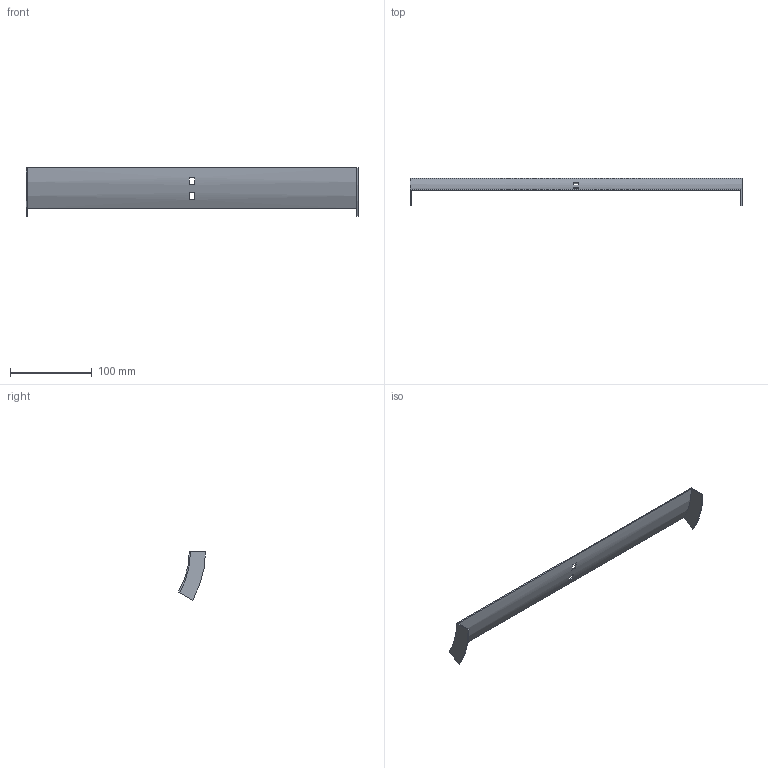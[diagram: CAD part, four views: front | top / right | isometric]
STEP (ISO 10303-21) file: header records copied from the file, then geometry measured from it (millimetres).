
FILE_DESCRIPTION (( 'STEP AP214' ), '1' );
FILE_NAME ('32N1R400.step', '2025-02-21T09:22:34', ( '' ), ( '' ), 'SwSTEP 2.0', 'SolidWorks 2023', '' );
FILE_SCHEMA (( 'AUTOMOTIVE_DESIGN' ));
Length unit declared in the file: millimetre
Products named in the file (1): 32N1R400
Bounding box: 407 x 33.2 x 59.25 mm (x, y, z)
Volume: 34722.7 mm3; surface area: 47908.3 mm2
Topology: 1 solids, 1 shells, 18 faces, 48 edges, 32 vertices
Faces by surface type: plane 14, cylinder 4
Entity records: 599 total; most frequent: DIRECTION 102, CARTESIAN_POINT 99, ORIENTED_EDGE 96, EDGE_CURVE 48, AXIS2_PLACEMENT_3D 35, VECTOR 32, VERTEX_POINT 32, LINE 32
